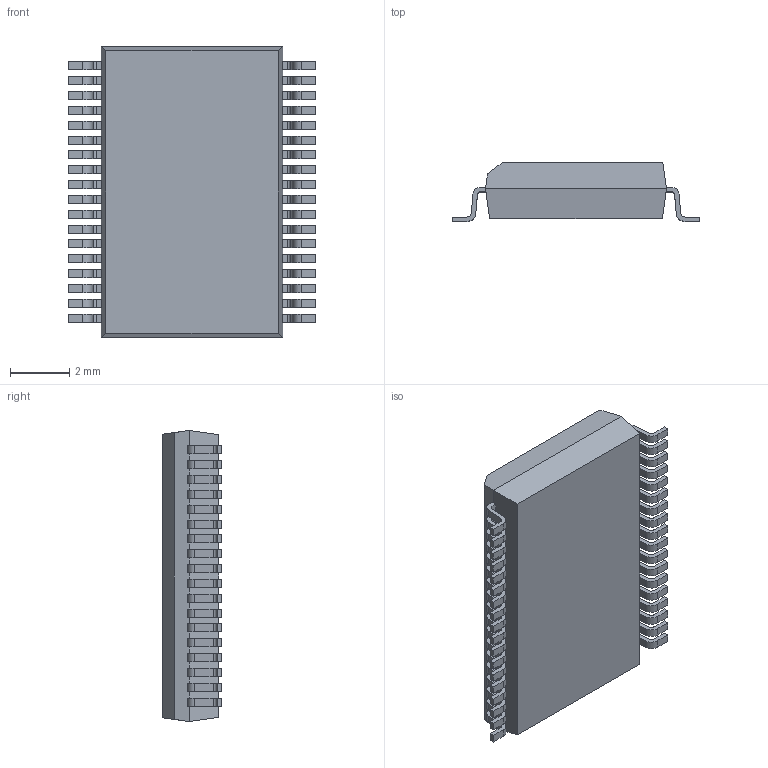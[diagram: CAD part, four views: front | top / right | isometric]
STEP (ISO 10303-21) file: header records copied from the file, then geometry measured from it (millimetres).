
FILE_DESCRIPTION (( 'STEP AP214' ), '1' );
FILE_NAME ('SSOP50P810X200-36_MO-152.EB.STEP', '2014-10-30T11:26:13', ( 'Tester2' ), ( '' ), 'SwSTEP 2.0', 'SolidWorks 2012', '' );
FILE_SCHEMA (( 'AUTOMOTIVE_DESIGN' ));
Length unit declared in the file: millimetre
Products named in the file (1): SSOP50P810X200-36_MO-152.EB
Bounding box: 8.3 x 2 x 9.8 mm (x, y, z)
Volume: 111.4 mm3; surface area: 226.1 mm2
Topology: 1 solids, 1 shells, 482 faces, 1433 edges, 954 vertices
Faces by surface type: plane 336, cylinder 146
Entity records: 21312 total; most frequent: CARTESIAN_POINT 2870, ORIENTED_EDGE 2866, DIRECTION 2691, EDGE_CURVE 1433, LINE 1141, VECTOR 1141, VERTEX_POINT 954, AXIS2_PLACEMENT_3D 775
